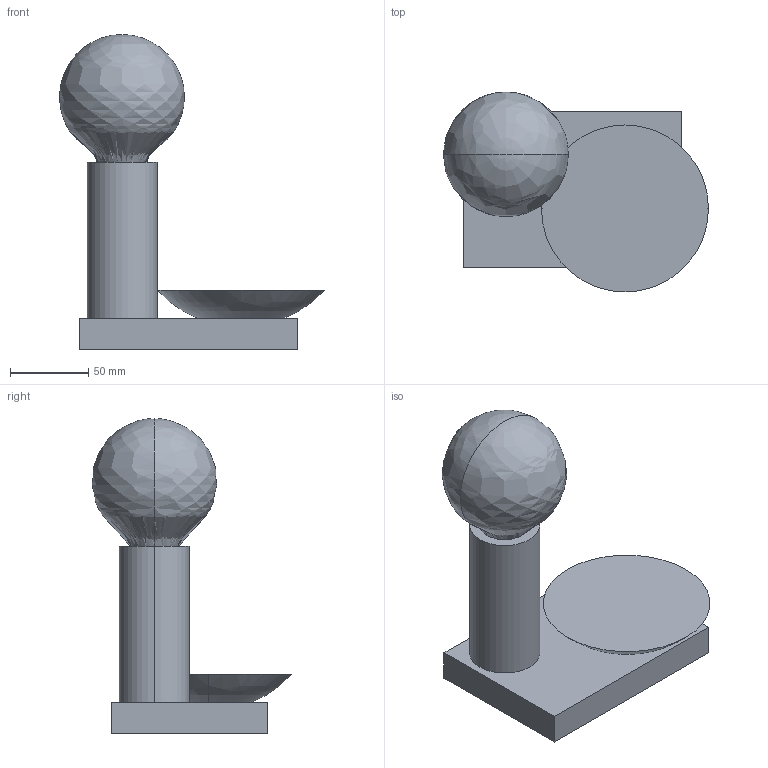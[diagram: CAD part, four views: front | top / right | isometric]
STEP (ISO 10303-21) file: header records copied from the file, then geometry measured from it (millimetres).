
FILE_DESCRIPTION(/* description */ (''),/* implementation_level */ '2;1');
FILE_NAME(/* name */ 'ILKW_MARIO14_Table_3D',/* time_stamp */ '2026-08-28T17:28:01+09:00',/* author */ (''),/* organization */ (''),/* preprocessor_version */ 'ST-DEVELOPER v19.2',/* originating_system */ 'Rhino 8.21',/* authorisation */ '');
FILE_SCHEMA (('CONFIG_CONTROL_DESIGN'));
Length unit declared in the file: millimetre
Products named in the file (1): Document
Bounding box: 169.74 x 127.91 x 201.73 mm (x, y, z)
Volume: 828379.1 mm3; surface area: 84320.3 mm2
Topology: 1 solids, 1 shells, 14 faces, 30 edges, 19 vertices
Faces by surface type: plane 8, bspline 4, cylinder 2
Entity records: 882 total; most frequent: CARTESIAN_POINT 545, ORIENTED_EDGE 56, DIRECTION 34, EDGE_CURVE 28, AXIS2_PLACEMENT_3D 22, VERTEX_POINT 19, EDGE_LOOP 17, ADVANCED_FACE 14
